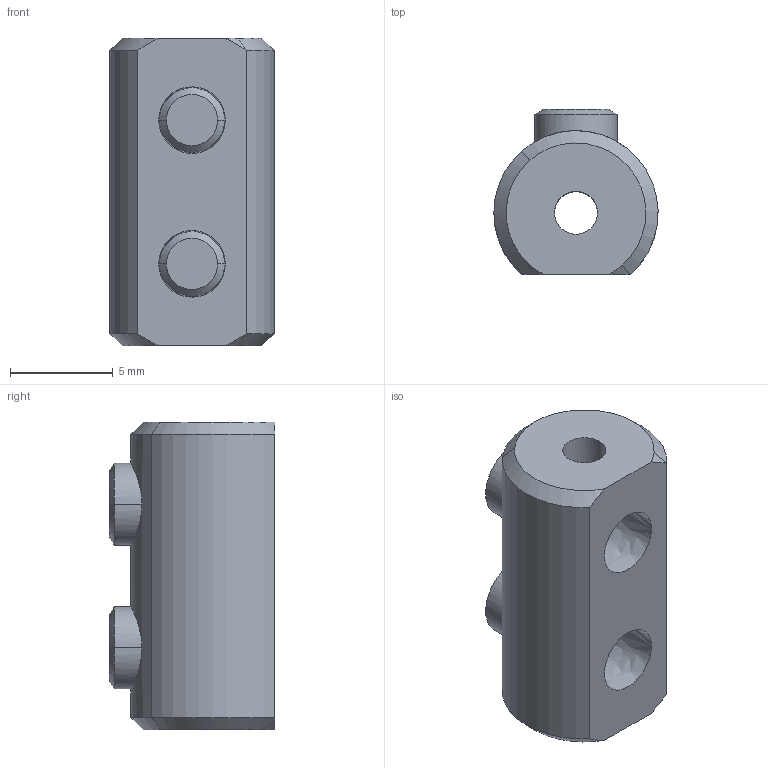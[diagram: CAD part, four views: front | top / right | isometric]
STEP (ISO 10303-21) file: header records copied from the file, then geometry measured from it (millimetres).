
FILE_DESCRIPTION((''),'2;1');
FILE_NAME('W:\214-198.stp','2004-01-23T15:28:33',('KAA'),(''),'Autodesk Inventor (R) 6.0','Autodesk Inventor (R) 6.0','');
FILE_SCHEMA(('CONFIG_CONTROL_DESIGN'));
Length unit declared in the file: millimetre
Products named in the file (1): 214-198
Bounding box: 8 x 8.05 x 15 mm (x, y, z)
Volume: 611.8 mm3; surface area: 627.6 mm2
Topology: 1 solids, 1 shells, 67 faces, 141 edges, 82 vertices
Faces by surface type: cone 30, plane 21, cylinder 12, bspline 4
Entity records: 2076 total; most frequent: CARTESIAN_POINT 603, DIRECTION 287, ORIENTED_EDGE 282, EDGE_CURVE 141, AXIS2_PLACEMENT_3D 114, VERTEX_POINT 82, EDGE_LOOP 79, FACE_OUTER_BOUND 67
